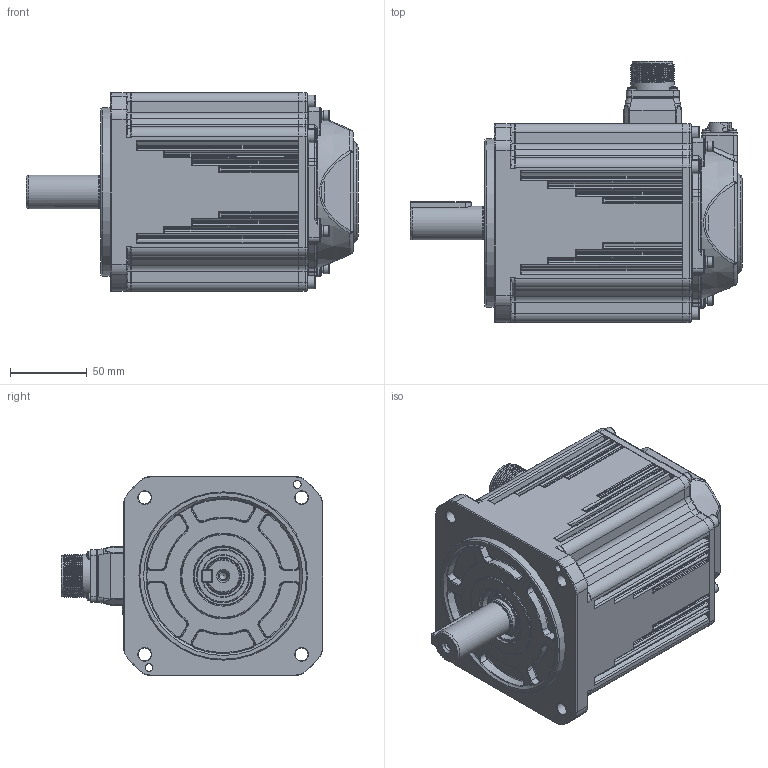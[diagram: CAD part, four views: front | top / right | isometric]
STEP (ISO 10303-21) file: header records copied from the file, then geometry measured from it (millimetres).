
FILE_DESCRIPTION (( 'STEP AP203' ), '1' );
FILE_NAME ('俋倛芞ACM2M-1318.STEP', '2023-01-10T03:56:41', ( '' ), ( '' ), 'SwSTEP 2.0', 'SolidWorks 2021', '' );
FILE_SCHEMA (( 'CONFIG_CONTROL_DESIGN' ));
Length unit declared in the file: millimetre
Products named in the file (12): 萇埭脣釱蹟隊_M3℅10; C型平键8×7×45螺纹拆卸型; 130蛌粣09-XX 粣扥耳22 40Cr DC RoHS_LX晤鎢ん; 130航插安装座密封垫 38.6×36.6×1.35 NBR HA70 RoHS; 130瑤脣假蚾釱; 130后端盖 卡簧式 高30.9 ADC12 LM RoHS_加工; 130前端盖0.85、1.3、1.8_成品-1.8; 俋倛芞ACM2M-1318; 綴傷裔蹟隊_M5℅20; ﾓﾍｷ筌ｻTC｣ｻ24｡ﾁ38｡ﾁ7｣ｻSOG; 2M-编码盖+插座+螺钉; 航插动力接插件 4芯 SZ RoHS
Assembly tree (17 placements, depth 2):
  俋倛芞ACM2M-1318
    130前端盖0.85、1.3、1.8_成品-1.8
    130蛌粣09-XX 粣扥耳22 40Cr DC RoHS_LX晤鎢ん
    130后端盖 卡簧式 高30.9 ADC12 LM RoHS_加工
    綴傷裔蹟隊_M5℅20  x4
    130瑤脣假蚾釱
    130航插安装座密封垫 38.6×36.6×1.35 NBR HA70 RoHS
    航插动力接插件 4芯 SZ RoHS
    萇埭脣釱蹟隊_M3℅10  x4
    ﾓﾍｷ筌ｻTC｣ｻ24｡ﾁ38｡ﾁ7｣ｻSOG
    C型平键8×7×45螺纹拆卸型
    2M-编码盖+插座+螺钉
Bounding box: 217 x 170.7 x 130 mm (x, y, z)
Volume: 2518967.1 mm3; surface area: 235236.5 mm2
Topology: 36 solids, 43 shells, 2908 faces, 7542 edges, 4767 vertices
Faces by surface type: plane 1355, cylinder 791, torus 374, bspline 282, cone 81, sphere 25
Full cylindrical faces by diameter (mm): 0.75 x10, 1.007 x10, 1.5 x9, 2 x1, 2.2 x2, 2.4 x4, 2.48 x4, 2.5 x8, 2.598 x8, 2.6 x2, 3 x9, 3.08 x1, 3.2 x12, 3.3 x5, 3.5 x4, 3.7 x4, 3.9 x4, 4 x4, 4.2 x4, 4.5 x8, 5 x7, 5.5 x4, 5.6 x8, 6.4 x1, 7 x4, 8.5 x8, 9 x4, 11.8 x1, 13 x1, 13.2 x1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
Entity records: 112504 total; most frequent: CARTESIAN_POINT 47948, ORIENTED_EDGE 13398, DIRECTION 12273, EDGE_CURVE 6699, AXIS2_PLACEMENT_3D 4544, VERTEX_POINT 4429, EDGE_LOOP 3294, LINE 3185
